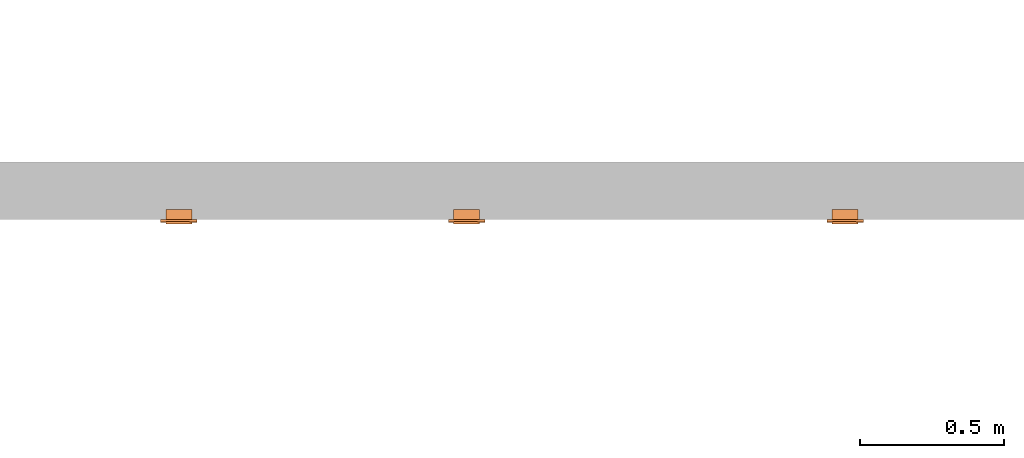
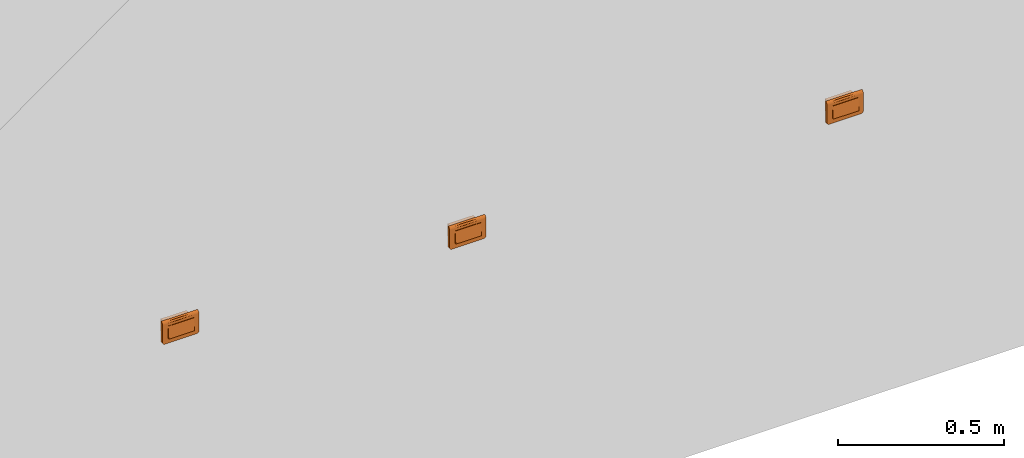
# One storey, part 144 of 197: 3 proxies.
"""IFC2X3 building model written with IfcOpenShell, lengths in metres."""

from ifc_helpers import new_model, entity, si_unit, converted_unit, direction, frame, origin, place, context, subcontext, project, spatial, faceted_brep, source, transform, mapped, material, material_list, type_object, type_shapes, element, save


model = new_model("IFC2X3")

# Units and contexts
model_context = context("Model", 3, precision=1e-05, world=origin(), true_north=direction((6.123031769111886e-17, 1.0)))
body_context = subcontext(model_context, "Body", "Model", "MODEL_VIEW")
ifc_project = project(units=[si_unit("LENGTHUNIT", "METRE"), converted_unit("PLANEANGLEUNIT", "DEGREE", entity("IfcPlaneAngleMeasure", 0.017453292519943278), si_unit("PLANEANGLEUNIT", "RADIAN"), dimensions=[0, 0, 0, 0, 0, 0, 0]), si_unit("AREAUNIT", "SQUARE_METRE")], contexts=[model_context])

# Site, building, storey
site_placement = place(None, origin())
site = spatial("IfcSite", under=ifc_project, at=site_placement, Name="Default", CompositionType="ELEMENT")
building_placement = place(site_placement, origin())
building = spatial("IfcBuilding", under=site, at=building_placement, CompositionType="ELEMENT")
storey_placement = place(building_placement, origin())
storey = spatial("IfcBuildingStorey", under=building, at=storey_placement, Name="Niveau 0", CompositionType="ELEMENT", Elevation=0.0)

# Proxies
ifc_material_1 = material(Name="<Unnamed>")
ifc_material_2 = material(Name="BETCE-DOIGT-BLANC")
ifc_material_3 = material(Name="BETCE-ENJOLIVEUR-BLANC")
ifc_material_list = material_list([ifc_material_1, ifc_material_2, ifc_material_3])
building_element_proxy_type_1 = type_object("IfcBuildingElementProxyType", Name="Tableau commande 1x4 modules encastré:4 SA", PredefinedType="NOTDEFINED", material=ifc_material_list)
shared_shape_1 = source(origin(), body_context, "Body", "Brep", [
    faceted_brep([(0.04499999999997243, 0.0, 0.022499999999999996), (0.04499999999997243, 0.03499999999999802, 0.022499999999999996), (0.02249999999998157, 0.03499999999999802, 0.022499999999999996), (0.02249999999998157, 0.0, 0.022499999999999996), (0.04499999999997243, 0.0, -0.022500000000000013), (0.02249999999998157, 0.0, -0.022500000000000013), (0.02249999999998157, 0.03499999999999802, -0.022500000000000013), (0.04499999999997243, 0.03499999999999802, -0.022500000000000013)], [[[0, 1, 2, 3]], [[4, 5, 6, 7]], [[1, 0, 4, 7]], [[2, 1, 7, 6]], [[3, 2, 6, 5]], [[0, 3, 5, 4]]]),
    faceted_brep([(0.02249999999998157, 0.0, 0.022499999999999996), (0.02249999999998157, 0.034999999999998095, 0.022499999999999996), (0.0, 0.034999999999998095, 0.022499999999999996), (0.0, 0.0, 0.022499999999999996), (0.02249999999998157, 0.0, -0.022500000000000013), (0.0, 0.0, -0.022500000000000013), (0.0, 0.034999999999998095, -0.022500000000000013), (0.02249999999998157, 0.034999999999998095, -0.022500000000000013)], [[[0, 1, 2, 3]], [[4, 5, 6, 7]], [[1, 0, 4, 7]], [[2, 1, 7, 6]], [[3, 2, 6, 5]], [[0, 3, 5, 4]]]),
    faceted_brep([(0.0, 0.0, 0.022499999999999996), (0.0, 0.034999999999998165, 0.022499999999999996), (-0.02250000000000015, 0.034999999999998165, 0.022499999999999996), (-0.02250000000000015, 0.0, 0.022499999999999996), (0.0, 0.0, -0.022500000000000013), (-0.02250000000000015, 0.0, -0.022500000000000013), (-0.02250000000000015, 0.034999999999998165, -0.022500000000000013), (0.0, 0.034999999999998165, -0.022500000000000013)], [[[0, 1, 2, 3]], [[4, 5, 6, 7]], [[1, 0, 4, 7]], [[2, 1, 7, 6]], [[3, 2, 6, 5]], [[0, 3, 5, 4]]]),
    faceted_brep([(-0.02250000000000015, 0.0, 0.022499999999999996), (-0.02250000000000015, 0.034999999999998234, 0.022499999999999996), (-0.044999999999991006, 0.034999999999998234, 0.022499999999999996), (-0.044999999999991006, 0.0, 0.022499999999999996), (-0.02250000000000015, 0.0, -0.022500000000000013), (-0.044999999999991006, 0.0, -0.022500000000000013), (-0.044999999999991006, 0.034999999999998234, -0.022500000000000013), (-0.02250000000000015, 0.034999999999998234, -0.022500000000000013)], [[[0, 1, 2, 3]], [[4, 5, 6, 7]], [[1, 0, 4, 7]], [[2, 1, 7, 6]], [[3, 2, 6, 5]], [[0, 3, 5, 4]]]),
    faceted_brep([(0.022500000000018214, -0.010500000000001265, 0.022499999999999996), (0.02250000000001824, -0.015000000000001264, -0.022500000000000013), (0.0450000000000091, -0.01500000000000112, -0.022500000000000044), (0.045000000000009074, -0.010500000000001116, 0.022499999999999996), (0.02250000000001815, 0.0, -0.022500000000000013), (0.02250000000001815, 0.0, 0.022499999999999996), (0.045000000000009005, 0.0, 0.022499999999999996), (0.045000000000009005, 0.0, -0.022500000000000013)], [[[0, 1, 2, 3]], [[4, 5, 6, 7]], [[5, 4, 1, 0]], [[6, 5, 0, 3]], [[7, 6, 3, 2]], [[4, 7, 2, 1]]]),
    faceted_brep([(-0.044999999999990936, -0.010500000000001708, 0.022500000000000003), (-0.044999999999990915, -0.015000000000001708, -0.022500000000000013), (-0.022500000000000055, -0.015000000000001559, -0.022499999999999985), (-0.022500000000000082, -0.01050000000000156, 0.022499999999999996), (-0.044999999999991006, 0.0, -0.022500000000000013), (-0.044999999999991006, 0.0, 0.022499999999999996), (-0.02250000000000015, 0.0, 0.022499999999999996), (-0.02250000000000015, 0.0, -0.022500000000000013)], [[[0, 1, 2, 3]], [[4, 5, 6, 7]], [[5, 4, 1, 0]], [[6, 5, 0, 3]], [[7, 6, 3, 2]], [[4, 7, 2, 1]]]),
    faceted_brep([(0.0, -0.010500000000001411, 0.022500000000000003), (0.0, -0.015000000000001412, -0.022500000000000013), (0.022499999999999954, -0.015000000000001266, -0.022500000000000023), (0.022499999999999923, -0.010500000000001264, 0.022499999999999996), (0.0, 0.0, -0.022500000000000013), (0.0, 0.0, 0.022499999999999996), (0.02249999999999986, 0.0, 0.022499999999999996), (0.02249999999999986, 0.0, -0.022500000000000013)], [[[0, 1, 2, 3]], [[4, 5, 6, 7]], [[5, 4, 1, 0]], [[6, 5, 0, 3]], [[7, 6, 3, 2]], [[4, 7, 2, 1]]]),
    faceted_brep([(-0.02250000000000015, 0.0, -0.022500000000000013), (-0.02250000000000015, 0.0, 0.022499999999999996), (0.0, 0.0, 0.022499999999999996), (0.0, 0.0, -0.022500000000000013), (-0.022500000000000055, -0.01500000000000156, -0.022500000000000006), (-0.022500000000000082, -0.010500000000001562, 0.022499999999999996), (0.0, -0.010500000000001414, 0.022499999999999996), (0.0, -0.015000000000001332, -0.022500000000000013)], [[[0, 1, 2, 3]], [[1, 0, 4, 5]], [[2, 1, 5, 6]], [[3, 2, 6, 7]], [[0, 3, 7, 4]], [[5, 4, 7, 6]]]),
    faceted_brep([(0.06350000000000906, -0.009000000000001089, -0.03299999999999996), (0.06350000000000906, -0.009000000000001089, 0.031999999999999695), (0.045000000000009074, -0.009000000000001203, -0.022500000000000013), (0.055500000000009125, -0.009000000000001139, -0.04099999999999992), (0.05757055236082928, -0.009000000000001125, -0.04072740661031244), (0.059500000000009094, -0.009000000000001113, -0.0399282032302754), (0.061156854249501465, -0.009000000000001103, -0.03865685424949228), (0.06322740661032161, -0.00900000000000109, -0.03507055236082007), (0.04500000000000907, -0.009000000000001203, 0.022499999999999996), (-0.04499999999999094, -0.009000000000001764, 0.022499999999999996), (-0.011124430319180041, -0.009000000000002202, 0.03199999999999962), (-0.06349999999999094, -0.009000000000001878, 0.031999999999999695), (-0.04499999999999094, -0.009000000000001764, -0.022500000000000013), (-0.06349999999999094, -0.009000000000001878, -0.032999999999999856), (-0.055499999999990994, -0.00900000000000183, -0.04099999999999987), (-0.05757055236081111, -0.009000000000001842, -0.040727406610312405), (-0.059499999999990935, -0.009000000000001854, -0.039928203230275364), (-0.06115685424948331, -0.009000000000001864, -0.038656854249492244), (-0.06322740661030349, -0.009000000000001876, -0.035070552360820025), (-0.06242820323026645, -0.009000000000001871, -0.03699999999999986), (0.062428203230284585, -0.009000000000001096, -0.036999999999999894), (-0.063499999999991, 0.0, -0.03299999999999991), (-0.063499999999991, 0.0, 0.04100000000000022), (-0.044999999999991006, 0.0, 0.022499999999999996), (-0.044999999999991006, 0.0, -0.022500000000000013), (-0.05549999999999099, 0.0, -0.04099999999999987), (-0.05757055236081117, 0.0, -0.040727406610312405), (-0.05949999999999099, 0.0, -0.039928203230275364), (-0.06322740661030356, 0.0, -0.035070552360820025), (0.045000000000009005, 0.0, 0.022499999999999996), (0.011124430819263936, 0.0, 0.041000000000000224), (0.063500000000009, 0.0, 0.041000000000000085), (0.06350000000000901, 0.0, -0.03299999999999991), (0.04500000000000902, 0.0, -0.022500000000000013), (0.05550000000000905, 0.0, -0.040999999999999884), (0.057570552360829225, 0.0, -0.04072740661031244), (0.05950000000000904, 0.0, -0.0399282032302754), (0.06322740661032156, 0.0, -0.03507055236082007), (0.06115685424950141, 0.0, -0.03865685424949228), (0.06242820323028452, 0.0, -0.036999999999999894), (-0.06115685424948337, 0.0, -0.038656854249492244), (-0.062428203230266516, 0.0, -0.03699999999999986), (0.06350000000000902, -0.002329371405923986, 0.04069333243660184), (0.06350000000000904, -0.004500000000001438, 0.03979422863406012), (0.06350000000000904, -0.006363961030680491, 0.038363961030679), (0.06350000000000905, -0.007794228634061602, 0.03649999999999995), (0.06350000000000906, -0.008693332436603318, 0.0343293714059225), (-0.06349999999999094, -0.008693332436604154, 0.03432937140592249), (-0.06349999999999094, -0.0077942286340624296, 0.03649999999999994), (-0.06349999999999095, -0.006363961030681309, 0.038363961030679), (-0.06349999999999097, -0.004500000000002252, 0.039794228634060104), (-0.06349999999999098, -0.002329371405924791, 0.04069333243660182), (-0.010857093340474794, -0.006120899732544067, 0.03859807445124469)], [[[0, 1, 2]], [[3, 0, 2]], [[0, 3, 4]], [[0, 4, 5]], [[5, 6, 0]], [[7, 0, 6]], [[2, 1, 8]], [[1, 9, 8]], [[9, 1, 10]], [[9, 10, 11]], [[12, 9, 11]], [[13, 12, 11]], [[14, 12, 13]], [[14, 13, 15]], [[16, 15, 13]], [[13, 17, 16]], [[17, 13, 18]], [[17, 18, 19]], [[12, 14, 3]], [[2, 12, 3]], [[20, 7, 6]], [[21, 22, 23]], [[24, 21, 23]], [[25, 21, 24]], [[21, 25, 26]], [[21, 26, 27]], [[28, 21, 27]], [[22, 29, 23]], [[29, 22, 30]], [[29, 30, 31]], [[32, 29, 31]], [[33, 29, 32]], [[34, 33, 32]], [[34, 32, 35]], [[36, 35, 32]], [[36, 32, 37]], [[37, 38, 36]], [[38, 37, 39]], [[33, 34, 25]], [[24, 33, 25]], [[27, 40, 28]], [[41, 28, 40]], [[1, 0, 32, 31, 42, 43, 44, 45, 46]], [[37, 32, 0, 7]], [[39, 37, 7, 20]], [[38, 39, 20, 6]], [[36, 38, 6, 5]], [[35, 36, 5, 4]], [[34, 35, 4, 3]], [[25, 34, 3, 14]], [[26, 25, 14, 15]], [[27, 26, 15, 16]], [[40, 27, 16, 17]], [[41, 40, 17, 19]], [[28, 41, 19, 18]], [[21, 28, 18, 13]], [[22, 21, 13, 11, 47, 48, 49, 50, 51]], [[24, 23, 9, 12]], [[33, 24, 12, 2]], [[29, 33, 2, 8]], [[23, 29, 8, 9]], [[52, 10, 45]], [[47, 11, 10]], [[1, 46, 10]], [[44, 52, 45]], [[46, 45, 10]], [[50, 52, 51]], [[48, 47, 10]], [[30, 52, 43]], [[48, 52, 49]], [[42, 31, 30]], [[30, 22, 51]], [[48, 10, 52]], [[30, 43, 42]], [[44, 43, 52]], [[52, 50, 49]], [[52, 30, 51]]]),
])
type_shapes(building_element_proxy_type_1, [shared_shape_1])
proxy_1_placement = place(storey_placement, frame((-383.52677966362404, 122.781355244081, 1.1)))
element("IfcBuildingElementProxy", 1, at=proxy_1_placement, inside=storey, type_object=building_element_proxy_type_1, material=ifc_material_list, Name="Tableau commande 1x4 modules encastré:4 SA", ObjectType="Tableau commande 1x4 modules encastré:4 SA", context=body_context, shape_type="MappedRepresentation", body=[
    mapped(shared_shape_1, transform((0.0, 0.0, 0.0), scale=1.0)),
])
building_element_proxy_type_2 = type_object("IfcBuildingElementProxyType", Name="Tableau commande 1x4 modules encastré:4 VV", PredefinedType="NOTDEFINED", material=ifc_material_list)
shared_shape_2 = source(origin(), body_context, "Body", "Brep", [
    faceted_brep([(0.04499999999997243, 0.0, 0.022499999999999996), (0.04499999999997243, 0.03499999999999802, 0.022499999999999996), (0.02249999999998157, 0.03499999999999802, 0.022499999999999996), (0.02249999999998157, 0.0, 0.022499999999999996), (0.04499999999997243, 0.0, -0.022500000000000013), (0.02249999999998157, 0.0, -0.022500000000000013), (0.02249999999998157, 0.03499999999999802, -0.022500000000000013), (0.04499999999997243, 0.03499999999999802, -0.022500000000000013)], [[[0, 1, 2, 3]], [[4, 5, 6, 7]], [[1, 0, 4, 7]], [[2, 1, 7, 6]], [[3, 2, 6, 5]], [[0, 3, 5, 4]]]),
    faceted_brep([(0.02249999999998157, 0.0, 0.022499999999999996), (0.02249999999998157, 0.034999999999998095, 0.022499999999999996), (0.0, 0.034999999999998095, 0.022499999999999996), (0.0, 0.0, 0.022499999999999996), (0.02249999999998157, 0.0, -0.022500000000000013), (0.0, 0.0, -0.022500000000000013), (0.0, 0.034999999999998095, -0.022500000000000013), (0.02249999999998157, 0.034999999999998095, -0.022500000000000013)], [[[0, 1, 2, 3]], [[4, 5, 6, 7]], [[1, 0, 4, 7]], [[2, 1, 7, 6]], [[3, 2, 6, 5]], [[0, 3, 5, 4]]]),
    faceted_brep([(0.0, 0.0, 0.022499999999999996), (0.0, 0.034999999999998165, 0.022499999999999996), (-0.02250000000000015, 0.034999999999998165, 0.022499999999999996), (-0.02250000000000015, 0.0, 0.022499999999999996), (0.0, 0.0, -0.022500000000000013), (-0.02250000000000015, 0.0, -0.022500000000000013), (-0.02250000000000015, 0.034999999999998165, -0.022500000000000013), (0.0, 0.034999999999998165, -0.022500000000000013)], [[[0, 1, 2, 3]], [[4, 5, 6, 7]], [[1, 0, 4, 7]], [[2, 1, 7, 6]], [[3, 2, 6, 5]], [[0, 3, 5, 4]]]),
    faceted_brep([(-0.02250000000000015, 0.0, 0.022499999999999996), (-0.02250000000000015, 0.034999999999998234, 0.022499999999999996), (-0.044999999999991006, 0.034999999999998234, 0.022499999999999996), (-0.044999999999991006, 0.0, 0.022499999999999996), (-0.02250000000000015, 0.0, -0.022500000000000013), (-0.044999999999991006, 0.0, -0.022500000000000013), (-0.044999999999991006, 0.034999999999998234, -0.022500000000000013), (-0.02250000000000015, 0.034999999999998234, -0.022500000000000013)], [[[0, 1, 2, 3]], [[4, 5, 6, 7]], [[1, 0, 4, 7]], [[2, 1, 7, 6]], [[3, 2, 6, 5]], [[0, 3, 5, 4]]]),
    faceted_brep([(0.022500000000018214, -0.010500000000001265, 0.022499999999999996), (0.02250000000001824, -0.015000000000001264, -0.022500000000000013), (0.0450000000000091, -0.01500000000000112, -0.022500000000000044), (0.045000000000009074, -0.010500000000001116, 0.022499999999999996), (0.02250000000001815, 0.0, -0.022500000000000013), (0.02250000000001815, 0.0, 0.022499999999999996), (0.045000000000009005, 0.0, 0.022499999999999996), (0.045000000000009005, 0.0, -0.022500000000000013)], [[[0, 1, 2, 3]], [[4, 5, 6, 7]], [[5, 4, 1, 0]], [[6, 5, 0, 3]], [[7, 6, 3, 2]], [[4, 7, 2, 1]]]),
    faceted_brep([(-0.044999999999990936, -0.010500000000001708, 0.022500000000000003), (-0.044999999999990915, -0.015000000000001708, -0.022500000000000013), (-0.022500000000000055, -0.015000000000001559, -0.022499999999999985), (-0.022500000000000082, -0.01050000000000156, 0.022499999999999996), (-0.044999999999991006, 0.0, -0.022500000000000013), (-0.044999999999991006, 0.0, 0.022499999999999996), (-0.02250000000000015, 0.0, 0.022499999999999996), (-0.02250000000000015, 0.0, -0.022500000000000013)], [[[0, 1, 2, 3]], [[4, 5, 6, 7]], [[5, 4, 1, 0]], [[6, 5, 0, 3]], [[7, 6, 3, 2]], [[4, 7, 2, 1]]]),
    faceted_brep([(0.0, -0.010500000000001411, 0.022500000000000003), (0.0, -0.015000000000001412, -0.022500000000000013), (0.022499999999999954, -0.015000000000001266, -0.022500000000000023), (0.022499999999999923, -0.010500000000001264, 0.022499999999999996), (0.0, 0.0, -0.022500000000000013), (0.0, 0.0, 0.022499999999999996), (0.02249999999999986, 0.0, 0.022499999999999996), (0.02249999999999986, 0.0, -0.022500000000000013)], [[[0, 1, 2, 3]], [[4, 5, 6, 7]], [[5, 4, 1, 0]], [[6, 5, 0, 3]], [[7, 6, 3, 2]], [[4, 7, 2, 1]]]),
    faceted_brep([(-0.02250000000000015, 0.0, -0.022500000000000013), (-0.02250000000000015, 0.0, 0.022499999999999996), (0.0, 0.0, 0.022499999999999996), (0.0, 0.0, -0.022500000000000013), (-0.022500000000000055, -0.01500000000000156, -0.022500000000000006), (-0.022500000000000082, -0.010500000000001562, 0.022499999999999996), (0.0, -0.010500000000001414, 0.022499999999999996), (0.0, -0.015000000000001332, -0.022500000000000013)], [[[0, 1, 2, 3]], [[1, 0, 4, 5]], [[2, 1, 5, 6]], [[3, 2, 6, 7]], [[0, 3, 7, 4]], [[5, 4, 7, 6]]]),
    faceted_brep([(0.06350000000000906, -0.009000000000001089, -0.03299999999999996), (0.06350000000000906, -0.009000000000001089, 0.031999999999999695), (0.045000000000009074, -0.009000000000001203, -0.022500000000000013), (0.055500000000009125, -0.009000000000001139, -0.04099999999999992), (0.05757055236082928, -0.009000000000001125, -0.04072740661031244), (0.059500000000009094, -0.009000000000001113, -0.0399282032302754), (0.061156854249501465, -0.009000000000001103, -0.03865685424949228), (0.06322740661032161, -0.00900000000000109, -0.03507055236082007), (0.04500000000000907, -0.009000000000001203, 0.022499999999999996), (-0.04499999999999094, -0.009000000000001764, 0.022499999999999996), (-0.011124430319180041, -0.009000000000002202, 0.03199999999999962), (-0.06349999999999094, -0.009000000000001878, 0.031999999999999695), (-0.04499999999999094, -0.009000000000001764, -0.022500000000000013), (-0.06349999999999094, -0.009000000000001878, -0.032999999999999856), (-0.055499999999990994, -0.00900000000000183, -0.04099999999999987), (-0.05757055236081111, -0.009000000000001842, -0.040727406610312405), (-0.059499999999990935, -0.009000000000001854, -0.039928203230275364), (-0.06115685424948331, -0.009000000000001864, -0.038656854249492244), (-0.06322740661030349, -0.009000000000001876, -0.035070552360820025), (-0.06242820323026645, -0.009000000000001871, -0.03699999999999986), (0.062428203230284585, -0.009000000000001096, -0.036999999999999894), (-0.063499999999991, 0.0, -0.03299999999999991), (-0.063499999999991, 0.0, 0.04100000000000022), (-0.044999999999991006, 0.0, 0.022499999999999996), (-0.044999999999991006, 0.0, -0.022500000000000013), (-0.05549999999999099, 0.0, -0.04099999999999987), (-0.05757055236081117, 0.0, -0.040727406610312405), (-0.05949999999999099, 0.0, -0.039928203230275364), (-0.06322740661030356, 0.0, -0.035070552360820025), (0.045000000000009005, 0.0, 0.022499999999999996), (0.011124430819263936, 0.0, 0.041000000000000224), (0.063500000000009, 0.0, 0.041000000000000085), (0.06350000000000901, 0.0, -0.03299999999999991), (0.04500000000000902, 0.0, -0.022500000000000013), (0.05550000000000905, 0.0, -0.040999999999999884), (0.057570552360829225, 0.0, -0.04072740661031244), (0.05950000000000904, 0.0, -0.0399282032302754), (0.06322740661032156, 0.0, -0.03507055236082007), (0.06115685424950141, 0.0, -0.03865685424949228), (0.06242820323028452, 0.0, -0.036999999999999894), (-0.06115685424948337, 0.0, -0.038656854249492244), (-0.062428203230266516, 0.0, -0.03699999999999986), (0.06350000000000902, -0.002329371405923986, 0.04069333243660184), (0.06350000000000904, -0.004500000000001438, 0.03979422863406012), (0.06350000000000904, -0.006363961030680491, 0.038363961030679), (0.06350000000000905, -0.007794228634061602, 0.03649999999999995), (0.06350000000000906, -0.008693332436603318, 0.0343293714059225), (-0.06349999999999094, -0.008693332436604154, 0.03432937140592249), (-0.06349999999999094, -0.0077942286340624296, 0.03649999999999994), (-0.06349999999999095, -0.006363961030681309, 0.038363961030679), (-0.06349999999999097, -0.004500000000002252, 0.039794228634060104), (-0.06349999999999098, -0.002329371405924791, 0.04069333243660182), (-0.010857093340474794, -0.006120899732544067, 0.03859807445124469)], [[[0, 1, 2]], [[3, 0, 2]], [[0, 3, 4]], [[0, 4, 5]], [[5, 6, 0]], [[7, 0, 6]], [[2, 1, 8]], [[1, 9, 8]], [[9, 1, 10]], [[9, 10, 11]], [[12, 9, 11]], [[13, 12, 11]], [[14, 12, 13]], [[14, 13, 15]], [[16, 15, 13]], [[13, 17, 16]], [[17, 13, 18]], [[17, 18, 19]], [[12, 14, 3]], [[2, 12, 3]], [[20, 7, 6]], [[21, 22, 23]], [[24, 21, 23]], [[25, 21, 24]], [[21, 25, 26]], [[21, 26, 27]], [[28, 21, 27]], [[22, 29, 23]], [[29, 22, 30]], [[29, 30, 31]], [[32, 29, 31]], [[33, 29, 32]], [[34, 33, 32]], [[34, 32, 35]], [[36, 35, 32]], [[36, 32, 37]], [[37, 38, 36]], [[38, 37, 39]], [[33, 34, 25]], [[24, 33, 25]], [[27, 40, 28]], [[41, 28, 40]], [[1, 0, 32, 31, 42, 43, 44, 45, 46]], [[37, 32, 0, 7]], [[39, 37, 7, 20]], [[38, 39, 20, 6]], [[36, 38, 6, 5]], [[35, 36, 5, 4]], [[34, 35, 4, 3]], [[25, 34, 3, 14]], [[26, 25, 14, 15]], [[27, 26, 15, 16]], [[40, 27, 16, 17]], [[41, 40, 17, 19]], [[28, 41, 19, 18]], [[21, 28, 18, 13]], [[22, 21, 13, 11, 47, 48, 49, 50, 51]], [[24, 23, 9, 12]], [[33, 24, 12, 2]], [[29, 33, 2, 8]], [[23, 29, 8, 9]], [[52, 10, 45]], [[47, 11, 10]], [[1, 46, 10]], [[44, 52, 45]], [[46, 45, 10]], [[50, 52, 51]], [[48, 47, 10]], [[30, 52, 43]], [[48, 52, 49]], [[42, 31, 30]], [[30, 22, 51]], [[48, 10, 52]], [[30, 43, 42]], [[44, 43, 52]], [[52, 50, 49]], [[52, 30, 51]]]),
])
type_shapes(building_element_proxy_type_2, [shared_shape_2])
proxy_2_placement = place(storey_placement, frame((-382.52677966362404, 122.781355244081, 1.1)))
element("IfcBuildingElementProxy", 2, at=proxy_2_placement, inside=storey, type_object=building_element_proxy_type_2, material=ifc_material_list, Name="Tableau commande 1x4 modules encastré:4 VV", ObjectType="Tableau commande 1x4 modules encastré:4 VV", context=body_context, shape_type="MappedRepresentation", body=[
    mapped(shared_shape_2, transform((0.0, 0.0, 0.0), scale=1.0)),
])
building_element_proxy_type_3 = type_object("IfcBuildingElementProxyType", Name="Tableau commande 1x4 modules encastré:1 SA + 1 BP + 2 VV", PredefinedType="NOTDEFINED", material=ifc_material_list)
shared_shape_3 = source(origin(), body_context, "Body", "Brep", [
    faceted_brep([(0.04499999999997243, 0.0, 0.022499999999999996), (0.04499999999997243, 0.03499999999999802, 0.022499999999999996), (0.02249999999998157, 0.03499999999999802, 0.022499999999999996), (0.02249999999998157, 0.0, 0.022499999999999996), (0.04499999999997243, 0.0, -0.022500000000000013), (0.02249999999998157, 0.0, -0.022500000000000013), (0.02249999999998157, 0.03499999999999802, -0.022500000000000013), (0.04499999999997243, 0.03499999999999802, -0.022500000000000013)], [[[0, 1, 2, 3]], [[4, 5, 6, 7]], [[1, 0, 4, 7]], [[2, 1, 7, 6]], [[3, 2, 6, 5]], [[0, 3, 5, 4]]]),
    faceted_brep([(0.02249999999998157, 0.0, 0.022499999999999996), (0.02249999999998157, 0.034999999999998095, 0.022499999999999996), (0.0, 0.034999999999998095, 0.022499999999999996), (0.0, 0.0, 0.022499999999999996), (0.02249999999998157, 0.0, -0.022500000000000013), (0.0, 0.0, -0.022500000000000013), (0.0, 0.034999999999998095, -0.022500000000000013), (0.02249999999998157, 0.034999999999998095, -0.022500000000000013)], [[[0, 1, 2, 3]], [[4, 5, 6, 7]], [[1, 0, 4, 7]], [[2, 1, 7, 6]], [[3, 2, 6, 5]], [[0, 3, 5, 4]]]),
    faceted_brep([(0.0, 0.0, 0.022499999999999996), (0.0, 0.034999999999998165, 0.022499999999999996), (-0.02250000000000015, 0.034999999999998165, 0.022499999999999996), (-0.02250000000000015, 0.0, 0.022499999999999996), (0.0, 0.0, -0.022500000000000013), (-0.02250000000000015, 0.0, -0.022500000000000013), (-0.02250000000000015, 0.034999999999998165, -0.022500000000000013), (0.0, 0.034999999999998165, -0.022500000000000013)], [[[0, 1, 2, 3]], [[4, 5, 6, 7]], [[1, 0, 4, 7]], [[2, 1, 7, 6]], [[3, 2, 6, 5]], [[0, 3, 5, 4]]]),
    faceted_brep([(-0.02250000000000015, 0.0, 0.022499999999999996), (-0.02250000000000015, 0.034999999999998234, 0.022499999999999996), (-0.044999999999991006, 0.034999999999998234, 0.022499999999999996), (-0.044999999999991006, 0.0, 0.022499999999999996), (-0.02250000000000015, 0.0, -0.022500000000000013), (-0.044999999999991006, 0.0, -0.022500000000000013), (-0.044999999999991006, 0.034999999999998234, -0.022500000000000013), (-0.02250000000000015, 0.034999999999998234, -0.022500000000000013)], [[[0, 1, 2, 3]], [[4, 5, 6, 7]], [[1, 0, 4, 7]], [[2, 1, 7, 6]], [[3, 2, 6, 5]], [[0, 3, 5, 4]]]),
    faceted_brep([(0.022500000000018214, -0.010500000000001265, 0.022499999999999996), (0.02250000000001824, -0.015000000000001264, -0.022500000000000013), (0.0450000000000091, -0.01500000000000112, -0.022500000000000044), (0.045000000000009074, -0.010500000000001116, 0.022499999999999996), (0.02250000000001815, 0.0, -0.022500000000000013), (0.02250000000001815, 0.0, 0.022499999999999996), (0.045000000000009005, 0.0, 0.022499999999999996), (0.045000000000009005, 0.0, -0.022500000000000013)], [[[0, 1, 2, 3]], [[4, 5, 6, 7]], [[5, 4, 1, 0]], [[6, 5, 0, 3]], [[7, 6, 3, 2]], [[4, 7, 2, 1]]]),
    faceted_brep([(-0.044999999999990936, -0.010500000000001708, 0.022500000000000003), (-0.044999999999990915, -0.015000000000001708, -0.022500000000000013), (-0.022500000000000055, -0.015000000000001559, -0.022499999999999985), (-0.022500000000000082, -0.01050000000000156, 0.022499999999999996), (-0.044999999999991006, 0.0, -0.022500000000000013), (-0.044999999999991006, 0.0, 0.022499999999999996), (-0.02250000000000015, 0.0, 0.022499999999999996), (-0.02250000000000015, 0.0, -0.022500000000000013)], [[[0, 1, 2, 3]], [[4, 5, 6, 7]], [[5, 4, 1, 0]], [[6, 5, 0, 3]], [[7, 6, 3, 2]], [[4, 7, 2, 1]]]),
    faceted_brep([(0.0, -0.010500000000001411, 0.022500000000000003), (0.0, -0.015000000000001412, -0.022500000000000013), (0.022499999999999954, -0.015000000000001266, -0.022500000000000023), (0.022499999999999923, -0.010500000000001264, 0.022499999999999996), (0.0, 0.0, -0.022500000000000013), (0.0, 0.0, 0.022499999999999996), (0.02249999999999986, 0.0, 0.022499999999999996), (0.02249999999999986, 0.0, -0.022500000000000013)], [[[0, 1, 2, 3]], [[4, 5, 6, 7]], [[5, 4, 1, 0]], [[6, 5, 0, 3]], [[7, 6, 3, 2]], [[4, 7, 2, 1]]]),
    faceted_brep([(-0.02250000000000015, 0.0, -0.022500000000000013), (-0.02250000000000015, 0.0, 0.022499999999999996), (0.0, 0.0, 0.022499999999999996), (0.0, 0.0, -0.022500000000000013), (-0.022500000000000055, -0.01500000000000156, -0.022500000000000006), (-0.022500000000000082, -0.010500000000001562, 0.022499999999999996), (0.0, -0.010500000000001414, 0.022499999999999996), (0.0, -0.015000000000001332, -0.022500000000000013)], [[[0, 1, 2, 3]], [[1, 0, 4, 5]], [[2, 1, 5, 6]], [[3, 2, 6, 7]], [[0, 3, 7, 4]], [[5, 4, 7, 6]]]),
    faceted_brep([(0.06350000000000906, -0.009000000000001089, -0.03299999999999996), (0.06350000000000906, -0.009000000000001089, 0.031999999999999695), (0.045000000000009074, -0.009000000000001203, -0.022500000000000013), (0.055500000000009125, -0.009000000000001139, -0.04099999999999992), (0.05757055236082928, -0.009000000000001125, -0.04072740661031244), (0.059500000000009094, -0.009000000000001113, -0.0399282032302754), (0.061156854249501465, -0.009000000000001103, -0.03865685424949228), (0.06322740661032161, -0.00900000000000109, -0.03507055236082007), (0.04500000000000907, -0.009000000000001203, 0.022499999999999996), (-0.04499999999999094, -0.009000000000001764, 0.022499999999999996), (-0.011124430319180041, -0.009000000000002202, 0.03199999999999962), (-0.06349999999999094, -0.009000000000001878, 0.031999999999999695), (-0.04499999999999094, -0.009000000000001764, -0.022500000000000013), (-0.06349999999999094, -0.009000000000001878, -0.032999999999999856), (-0.055499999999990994, -0.00900000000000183, -0.04099999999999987), (-0.05757055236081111, -0.009000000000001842, -0.040727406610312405), (-0.059499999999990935, -0.009000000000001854, -0.039928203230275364), (-0.06115685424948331, -0.009000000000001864, -0.038656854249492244), (-0.06322740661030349, -0.009000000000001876, -0.035070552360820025), (-0.06242820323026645, -0.009000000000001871, -0.03699999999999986), (0.062428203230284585, -0.009000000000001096, -0.036999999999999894), (-0.063499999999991, 0.0, -0.03299999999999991), (-0.063499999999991, 0.0, 0.04100000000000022), (-0.044999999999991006, 0.0, 0.022499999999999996), (-0.044999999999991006, 0.0, -0.022500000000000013), (-0.05549999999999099, 0.0, -0.04099999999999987), (-0.05757055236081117, 0.0, -0.040727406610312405), (-0.05949999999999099, 0.0, -0.039928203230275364), (-0.06322740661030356, 0.0, -0.035070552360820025), (0.045000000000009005, 0.0, 0.022499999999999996), (0.011124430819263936, 0.0, 0.041000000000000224), (0.063500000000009, 0.0, 0.041000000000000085), (0.06350000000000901, 0.0, -0.03299999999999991), (0.04500000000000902, 0.0, -0.022500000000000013), (0.05550000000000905, 0.0, -0.040999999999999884), (0.057570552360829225, 0.0, -0.04072740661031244), (0.05950000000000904, 0.0, -0.0399282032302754), (0.06322740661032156, 0.0, -0.03507055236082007), (0.06115685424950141, 0.0, -0.03865685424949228), (0.06242820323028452, 0.0, -0.036999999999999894), (-0.06115685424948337, 0.0, -0.038656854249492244), (-0.062428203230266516, 0.0, -0.03699999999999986), (0.06350000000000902, -0.002329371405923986, 0.04069333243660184), (0.06350000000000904, -0.004500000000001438, 0.03979422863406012), (0.06350000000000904, -0.006363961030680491, 0.038363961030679), (0.06350000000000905, -0.007794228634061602, 0.03649999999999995), (0.06350000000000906, -0.008693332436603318, 0.0343293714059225), (-0.06349999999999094, -0.008693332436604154, 0.03432937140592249), (-0.06349999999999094, -0.0077942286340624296, 0.03649999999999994), (-0.06349999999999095, -0.006363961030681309, 0.038363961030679), (-0.06349999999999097, -0.004500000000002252, 0.039794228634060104), (-0.06349999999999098, -0.002329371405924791, 0.04069333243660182), (-0.010857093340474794, -0.006120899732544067, 0.03859807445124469)], [[[0, 1, 2]], [[3, 0, 2]], [[0, 3, 4]], [[0, 4, 5]], [[5, 6, 0]], [[7, 0, 6]], [[2, 1, 8]], [[1, 9, 8]], [[9, 1, 10]], [[9, 10, 11]], [[12, 9, 11]], [[13, 12, 11]], [[14, 12, 13]], [[14, 13, 15]], [[16, 15, 13]], [[13, 17, 16]], [[17, 13, 18]], [[17, 18, 19]], [[12, 14, 3]], [[2, 12, 3]], [[20, 7, 6]], [[21, 22, 23]], [[24, 21, 23]], [[25, 21, 24]], [[21, 25, 26]], [[21, 26, 27]], [[28, 21, 27]], [[22, 29, 23]], [[29, 22, 30]], [[29, 30, 31]], [[32, 29, 31]], [[33, 29, 32]], [[34, 33, 32]], [[34, 32, 35]], [[36, 35, 32]], [[36, 32, 37]], [[37, 38, 36]], [[38, 37, 39]], [[33, 34, 25]], [[24, 33, 25]], [[27, 40, 28]], [[41, 28, 40]], [[1, 0, 32, 31, 42, 43, 44, 45, 46]], [[37, 32, 0, 7]], [[39, 37, 7, 20]], [[38, 39, 20, 6]], [[36, 38, 6, 5]], [[35, 36, 5, 4]], [[34, 35, 4, 3]], [[25, 34, 3, 14]], [[26, 25, 14, 15]], [[27, 26, 15, 16]], [[40, 27, 16, 17]], [[41, 40, 17, 19]], [[28, 41, 19, 18]], [[21, 28, 18, 13]], [[22, 21, 13, 11, 47, 48, 49, 50, 51]], [[24, 23, 9, 12]], [[33, 24, 12, 2]], [[29, 33, 2, 8]], [[23, 29, 8, 9]], [[52, 10, 45]], [[47, 11, 10]], [[1, 46, 10]], [[44, 52, 45]], [[46, 45, 10]], [[50, 52, 51]], [[48, 47, 10]], [[30, 52, 43]], [[48, 52, 49]], [[42, 31, 30]], [[30, 22, 51]], [[48, 10, 52]], [[30, 43, 42]], [[44, 43, 52]], [[52, 50, 49]], [[52, 30, 51]]]),
])
type_shapes(building_element_proxy_type_3, [shared_shape_3])
proxy_3_placement = place(storey_placement, frame((-381.211779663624, 122.781355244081, 1.1)))
element("IfcBuildingElementProxy", 3, at=proxy_3_placement, inside=storey, type_object=building_element_proxy_type_3, material=ifc_material_list, Name="Tableau commande 1x4 modules encastré:1 SA + 1 BP + 2 VV", ObjectType="Tableau commande 1x4 modules encastré:1 SA + 1 BP + 2 VV", context=body_context, shape_type="MappedRepresentation", body=[
    mapped(shared_shape_3, transform((0.0, 0.0, 0.0), scale=1.0)),
])

save(model, "model.ifc")
